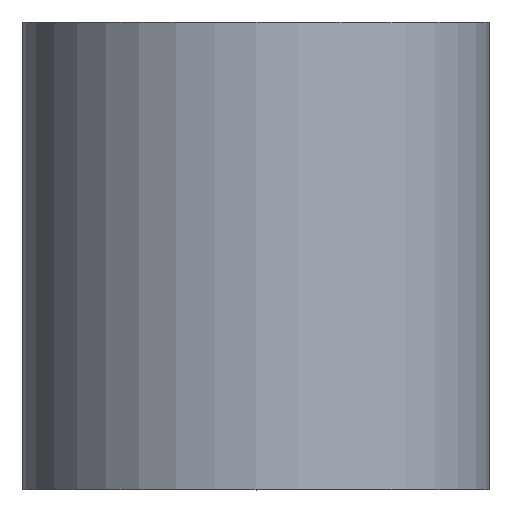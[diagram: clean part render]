
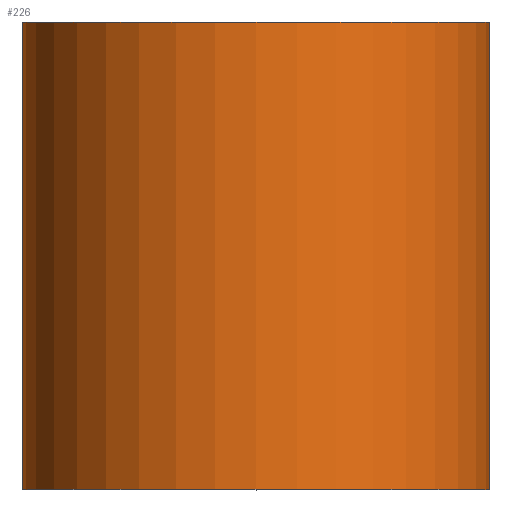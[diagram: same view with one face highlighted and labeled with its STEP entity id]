
A CAD part, top view. The second image highlights one B-rep face of the part: STEP entity #226.
In plain terms, the highlighted cylindrical face has radius 4 mm (diameter 8 mm), a partial arc.
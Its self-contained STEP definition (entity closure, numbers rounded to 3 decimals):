
#1 = CARTESIAN_POINT ( 'NONE',  ( 4., 0., 0. ) ) ;
#8 = DIRECTION ( 'NONE',  ( -1., 0., 0. ) ) ;
#10 = EDGE_CURVE ( 'NONE', #164, #127, #105, .T. ) ;
#21 = DIRECTION ( 'NONE',  ( 0., 1., 0. ) ) ;
#49 = DIRECTION ( 'NONE',  ( 0., 1., 0. ) ) ;
#51 = FACE_OUTER_BOUND ( 'NONE', #300, .T. ) ;
#60 = ORIENTED_EDGE ( 'NONE', *, *, #10, .F. ) ;
#64 = DIRECTION ( 'NONE',  ( 0., 1., 0. ) ) ;
#66 = VECTOR ( 'NONE', #64, 1000. ) ;
#68 = CARTESIAN_POINT ( 'NONE',  ( -4., 0., 0. ) ) ;
#74 = DIRECTION ( 'NONE',  ( 0., 1., 0. ) ) ;
#76 = VERTEX_POINT ( 'NONE', #1 ) ;
#90 = CARTESIAN_POINT ( 'NONE',  ( 4., 0., 0. ) ) ;
#98 = ORIENTED_EDGE ( 'NONE', *, *, #107, .T. ) ;
#103 = CIRCLE ( 'NONE', #246, 4. ) ;
#105 = LINE ( 'NONE', #68, #66 ) ;
#107 = EDGE_CURVE ( 'NONE', #164, #76, #103, .T. ) ;
#112 = DIRECTION ( 'NONE',  ( -1., 0., 0. ) ) ;
#119 = EDGE_CURVE ( 'NONE', #127, #295, #234, .T. ) ;
#123 = VECTOR ( 'NONE', #49, 1000. ) ;
#127 = VERTEX_POINT ( 'NONE', #137 ) ;
#137 = CARTESIAN_POINT ( 'NONE',  ( -4., 8., 0. ) ) ;
#152 = CARTESIAN_POINT ( 'NONE',  ( 0., 0., 0. ) ) ;
#156 = CARTESIAN_POINT ( 'NONE',  ( 0., 0., 0. ) ) ;
#164 = VERTEX_POINT ( 'NONE', #183 ) ;
#171 = AXIS2_PLACEMENT_3D ( 'NONE', #232, #256, #112 ) ;
#178 = DIRECTION ( 'NONE',  ( -1., 0., 0. ) ) ;
#183 = CARTESIAN_POINT ( 'NONE',  ( -4., 0., 0. ) ) ;
#196 = LINE ( 'NONE', #90, #123 ) ;
#218 = CARTESIAN_POINT ( 'NONE',  ( 4., 8., 0. ) ) ;
#220 = EDGE_CURVE ( 'NONE', #76, #295, #196, .T. ) ;
#225 = ORIENTED_EDGE ( 'NONE', *, *, #119, .F. ) ;
#226 = ADVANCED_FACE ( 'NONE', ( #51 ), #255, .T. ) ;
#232 = CARTESIAN_POINT ( 'NONE',  ( 0., 8., 0. ) ) ;
#234 = CIRCLE ( 'NONE', #171, 4. ) ;
#241 = AXIS2_PLACEMENT_3D ( 'NONE', #156, #74, #8 ) ;
#243 = ORIENTED_EDGE ( 'NONE', *, *, #220, .T. ) ;
#246 = AXIS2_PLACEMENT_3D ( 'NONE', #152, #21, #178 ) ;
#255 = CYLINDRICAL_SURFACE ( 'NONE', #241, 4. ) ;
#256 = DIRECTION ( 'NONE',  ( 0., 1., 0. ) ) ;
#295 = VERTEX_POINT ( 'NONE', #218 ) ;
#300 = EDGE_LOOP ( 'NONE', ( #98, #243, #225, #60 ) ) ;
